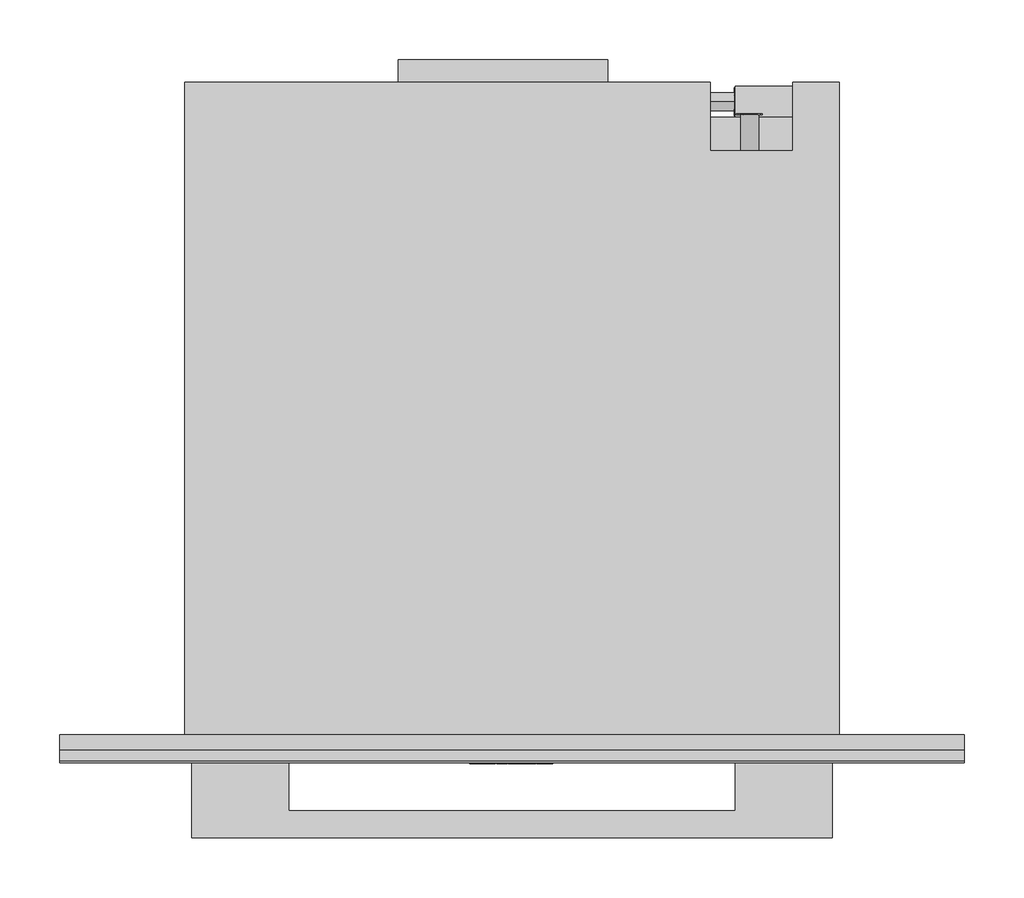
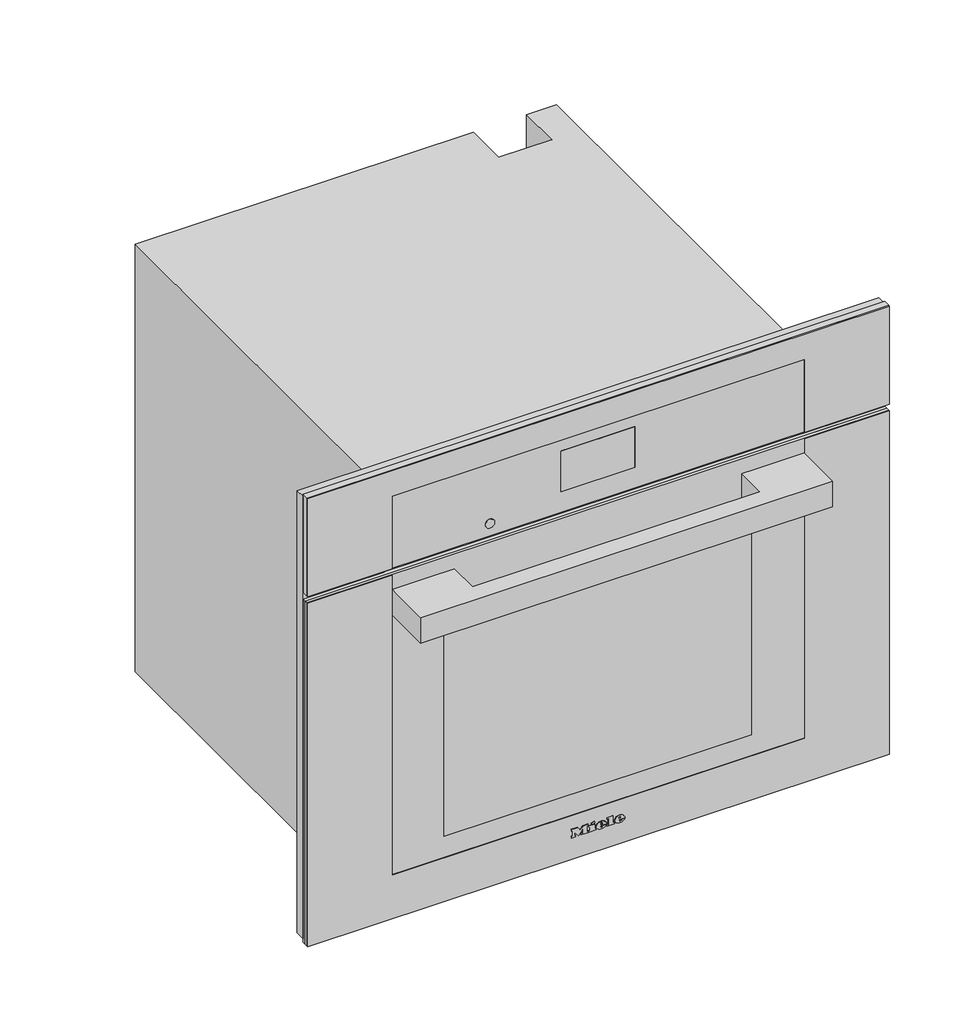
# Not in any storey: 1 proxy.
"""IFC4 building model written with IfcOpenShell, lengths in millimetres."""

from ifc_helpers import new_model, si_unit, origin, place, context, project, spatial, transform, mapped, element, save
from components import specialty_equipment_f7db8bf3

model = new_model("IFC4")

# Units and contexts
model_context = context("Model", 3, world=origin())
ifc_project = project(units=[si_unit("LENGTHUNIT", "METRE", prefix="MILLI")], contexts=[model_context])

# Site, building
site = spatial("IfcSite", under=ifc_project)
building = spatial("IfcBuilding", under=site)

# Proxy
placement = place(None, origin())
specialty_equipment_shape = specialty_equipment_f7db8bf3(model_context)
element("IfcBuildingElementProxy", 1, Name="11875850_USA_DGC7585_EDST-CLST : 23758543_USA_11875850_DGC7585_EDST-CLST", ObjectType="11875850_USA_DGC7585_EDST-CLST : 23758543_USA_11875850_DGC7585_EDST-CLST", at=placement, inside=building, context=model_context, shape_type="MappedRepresentation", body=[
    mapped(specialty_equipment_shape, transform((0.0, 0.0, 0.0), x_axis=(1.0, 0.0, 0.0), y_axis=(0.0, 1.0, 0.0), z_axis=(0.0, 0.0, 1.0))),
])

save(model, "model.ifc")
